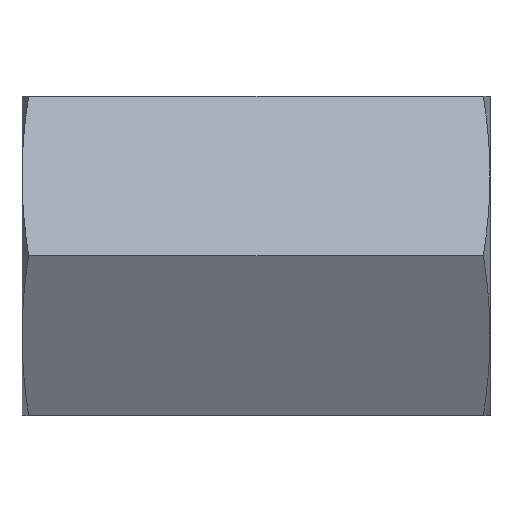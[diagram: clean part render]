
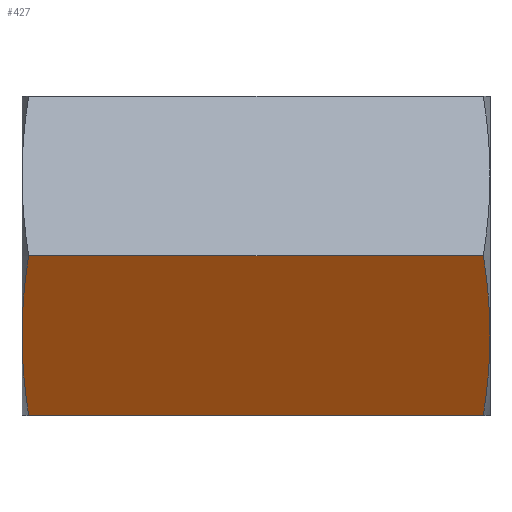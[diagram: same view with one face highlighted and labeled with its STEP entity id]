
A CAD part, top view. The second image highlights one B-rep face of the part: STEP entity #427.
In plain terms, the highlighted planar face has unit normal (0, -0.5, 0.866).
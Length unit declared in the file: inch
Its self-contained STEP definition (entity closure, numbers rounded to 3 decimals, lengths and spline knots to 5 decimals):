
#427 = ADVANCED_FACE( '', ( #973 ), #974, .F. );
#973 = FACE_OUTER_BOUND( '', #5313, .T. );
#974 = PLANE( '', #5314 );
#5313 = EDGE_LOOP( '', ( #8340, #8341, #8342, #8343, #8344, #8345 ) );
#5314 = AXIS2_PLACEMENT_3D( '', #8346, #8347, #8348 );
#8340 = ORIENTED_EDGE( '', *, *, #10164, .F. );
#8341 = ORIENTED_EDGE( '', *, *, #9753, .T. );
#8342 = ORIENTED_EDGE( '', *, *, #10165, .T. );
#8343 = ORIENTED_EDGE( '', *, *, #10043, .T. );
#8344 = ORIENTED_EDGE( '', *, *, #10060, .F. );
#8345 = ORIENTED_EDGE( '', *, *, #9937, .F. );
#8346 = CARTESIAN_POINT( '', ( 5.505, 0., 2.16506 ) );
#8347 = DIRECTION( '', ( 0., 0.5, -0.866 ) );
#8348 = DIRECTION( '', ( 0., 0.866, 0.5 ) );
#9753 = EDGE_CURVE( '', #10545, #10543, #10546, .T. );
#9937 = EDGE_CURVE( '', #10862, #10864, #10865, .T. );
#10043 = EDGE_CURVE( '', #11029, #11030, #11031, .T. );
#10060 = EDGE_CURVE( '', #10864, #11030, #11057, .T. );
#10164 = EDGE_CURVE( '', #10545, #10862, #11217, .T. );
#10165 = EDGE_CURVE( '', #10543, #11029, #11218, .T. );
#10543 = VERTEX_POINT( '', #12121 );
#10545 = VERTEX_POINT( '', #12123 );
#10546 = B_SPLINE_CURVE_WITH_KNOTS( '', 3, ( #12124, #12125, #12126, #12127, #12128, #12129 ), .UNSPECIFIED., .F., .F., ( 4, 2, 4 ), ( 0., 0.01375, 0.0275 ), .UNSPECIFIED. );
#10862 = VERTEX_POINT( '', #13679 );
#10864 = VERTEX_POINT( '', #13686 );
#10865 = B_SPLINE_CURVE_WITH_KNOTS( '', 3, ( #13687, #13688, #13689, #13690, #13691, #13692 ), .UNSPECIFIED., .F., .F., ( 4, 2, 4 ), ( 0., 0.01375, 0.0275 ), .UNSPECIFIED. );
#11029 = VERTEX_POINT( '', #14284 );
#11030 = VERTEX_POINT( '', #14285 );
#11031 = LINE( '', #14286, #14287 );
#11057 = B_SPLINE_CURVE_WITH_KNOTS( '', 3, ( #14340, #14341, #14342, #14343, #14344, #14345 ), .UNSPECIFIED., .F., .F., ( 4, 2, 4 ), ( 0.0275, 0.04124, 0.05499 ), .UNSPECIFIED. );
#11217 = LINE( '', #15129, #15130 );
#11218 = B_SPLINE_CURVE_WITH_KNOTS( '', 3, ( #15131, #15132, #15133, #15134, #15135, #15136 ), .UNSPECIFIED., .F., .F., ( 4, 2, 4 ), ( 0.0275, 0.04124, 0.05499 ), .UNSPECIFIED. );
#12121 = CARTESIAN_POINT( '', ( 5.505, -0.9375, 1.6238 ) );
#12123 = CARTESIAN_POINT( '', ( 5.42728, -1.875, 1.08253 ) );
#12124 = CARTESIAN_POINT( '', ( 5.42728, -1.875, 1.08253 ) );
#12125 = CARTESIAN_POINT( '', ( 5.45145, -1.71875, 1.17274 ) );
#12126 = CARTESIAN_POINT( '', ( 5.47108, -1.5625, 1.26295 ) );
#12127 = CARTESIAN_POINT( '', ( 5.49789, -1.25, 1.44338 ) );
#12128 = CARTESIAN_POINT( '', ( 5.505, -1.09375, 1.53359 ) );
#12129 = CARTESIAN_POINT( '', ( 5.505, -0.9375, 1.6238 ) );
#13679 = CARTESIAN_POINT( '', ( 0.07772, -1.875, 1.08253 ) );
#13686 = CARTESIAN_POINT( '', ( 0., -0.9375, 1.6238 ) );
#13687 = CARTESIAN_POINT( '', ( 0.07772, -1.875, 1.08253 ) );
#13688 = CARTESIAN_POINT( '', ( 0.05355, -1.71875, 1.17274 ) );
#13689 = CARTESIAN_POINT( '', ( 0.03392, -1.5625, 1.26295 ) );
#13690 = CARTESIAN_POINT( '', ( 0.00711, -1.25, 1.44338 ) );
#13691 = CARTESIAN_POINT( '', ( 0., -1.09375, 1.53359 ) );
#13692 = CARTESIAN_POINT( '', ( 0., -0.9375, 1.6238 ) );
#14284 = CARTESIAN_POINT( '', ( 5.42728, 0., 2.16506 ) );
#14285 = CARTESIAN_POINT( '', ( 0.07772, 0., 2.16506 ) );
#14286 = CARTESIAN_POINT( '', ( 5.505, 0., 2.16506 ) );
#14287 = VECTOR( '', #16827, 39.37008 );
#14340 = CARTESIAN_POINT( '', ( 0., -0.9375, 1.6238 ) );
#14341 = CARTESIAN_POINT( '', ( 0., -0.78125, 1.71401 ) );
#14342 = CARTESIAN_POINT( '', ( 0.00711, -0.625, 1.80422 ) );
#14343 = CARTESIAN_POINT( '', ( 0.03392, -0.3125, 1.98464 ) );
#14344 = CARTESIAN_POINT( '', ( 0.05355, -0.15625, 2.07485 ) );
#14345 = CARTESIAN_POINT( '', ( 0.07772, 0., 2.16506 ) );
#15129 = CARTESIAN_POINT( '', ( 5.505, -1.875, 1.08253 ) );
#15130 = VECTOR( '', #16911, 39.37008 );
#15131 = CARTESIAN_POINT( '', ( 5.505, -0.9375, 1.6238 ) );
#15132 = CARTESIAN_POINT( '', ( 5.505, -0.78125, 1.71401 ) );
#15133 = CARTESIAN_POINT( '', ( 5.49789, -0.625, 1.80422 ) );
#15134 = CARTESIAN_POINT( '', ( 5.47108, -0.3125, 1.98464 ) );
#15135 = CARTESIAN_POINT( '', ( 5.45145, -0.15625, 2.07485 ) );
#15136 = CARTESIAN_POINT( '', ( 5.42728, 0., 2.16506 ) );
#16827 = DIRECTION( '', ( -1., 0., 0. ) );
#16911 = DIRECTION( '', ( -1., 0., 0. ) );
